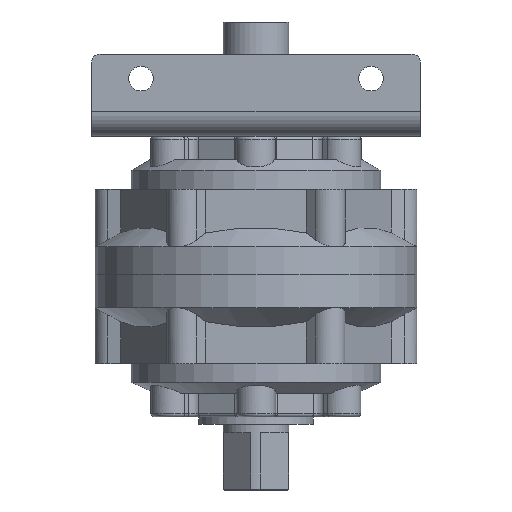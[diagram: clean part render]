
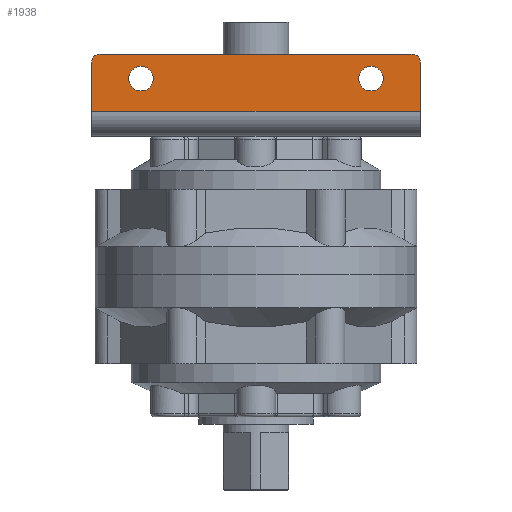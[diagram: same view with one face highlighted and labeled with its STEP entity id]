
A CAD part, front view. The second image highlights one B-rep face of the part: STEP entity #1938.
In plain terms, the highlighted planar face has unit normal (0, -1, 0).
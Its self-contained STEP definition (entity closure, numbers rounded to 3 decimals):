
#366 = EDGE_LOOP ( 'NONE', ( #7292, #17486 ) ) ;
#391 = VERTEX_POINT ( 'NONE', #3326 ) ;
#470 = DIRECTION ( 'NONE',  ( 0., 1., 0. ) ) ;
#867 = CARTESIAN_POINT ( 'NONE',  ( -100., -110., 30. ) ) ;
#1207 = VERTEX_POINT ( 'NONE', #8884 ) ;
#1219 = EDGE_CURVE ( 'NONE', #17101, #16779, #10678, .T. ) ;
#1266 = DIRECTION ( 'NONE',  ( 1., 0., 0. ) ) ;
#1867 = EDGE_CURVE ( 'NONE', #7527, #16779, #5267, .T. ) ;
#1938 = ADVANCED_FACE ( 'NONE', ( #9485, #8548, #1988 ), #11803, .T. ) ;
#1988 = FACE_BOUND ( 'NONE', #11320, .T. ) ;
#2032 = EDGE_CURVE ( 'NONE', #1207, #16079, #10176, .T. ) ;
#2201 = VERTEX_POINT ( 'NONE', #11086 ) ;
#2236 = EDGE_CURVE ( 'NONE', #2201, #7787, #7585, .T. ) ;
#2492 = ORIENTED_EDGE ( 'NONE', *, *, #6726, .T. ) ;
#2728 = DIRECTION ( 'NONE',  ( 0., 0., -1. ) ) ;
#3054 = CARTESIAN_POINT ( 'NONE',  ( 95., -110., 30. ) ) ;
#3326 = CARTESIAN_POINT ( 'NONE',  ( 100., -110., 0. ) ) ;
#3534 = EDGE_CURVE ( 'NONE', #7787, #2201, #10138, .T. ) ;
#3646 = VERTEX_POINT ( 'NONE', #15565 ) ;
#3648 = CARTESIAN_POINT ( 'NONE',  ( -100., -110., 0. ) ) ;
#3713 = EDGE_CURVE ( 'NONE', #10360, #3646, #11523, .T. ) ;
#3723 = AXIS2_PLACEMENT_3D ( 'NONE', #13331, #11874, #2728 ) ;
#3858 = AXIS2_PLACEMENT_3D ( 'NONE', #10850, #470, #9229 ) ;
#4544 = DIRECTION ( 'NONE',  ( 0., -1., 0. ) ) ;
#5107 = EDGE_LOOP ( 'NONE', ( #16360, #2492, #7720, #14678, #10292, #6778 ) ) ;
#5267 = LINE ( 'NONE', #13265, #17916 ) ;
#5488 = CIRCLE ( 'NONE', #11599, 7.5 ) ;
#5859 = CARTESIAN_POINT ( 'NONE',  ( -70., -110., 20. ) ) ;
#6327 = LINE ( 'NONE', #16575, #6568 ) ;
#6568 = VECTOR ( 'NONE', #10939, 1000. ) ;
#6699 = CARTESIAN_POINT ( 'NONE',  ( 70., -110., 20. ) ) ;
#6726 = EDGE_CURVE ( 'NONE', #7527, #391, #6327, .T. ) ;
#6763 = DIRECTION ( 'NONE',  ( 0., 1., 0. ) ) ;
#6778 = ORIENTED_EDGE ( 'NONE', *, *, #1219, .T. ) ;
#6876 = AXIS2_PLACEMENT_3D ( 'NONE', #6995, #12761, #8306 ) ;
#6995 = CARTESIAN_POINT ( 'NONE',  ( -70., -110., 20. ) ) ;
#7292 = ORIENTED_EDGE ( 'NONE', *, *, #3713, .F. ) ;
#7527 = VERTEX_POINT ( 'NONE', #3648 ) ;
#7585 = CIRCLE ( 'NONE', #18141, 7.5 ) ;
#7720 = ORIENTED_EDGE ( 'NONE', *, *, #12596, .T. ) ;
#7787 = VERTEX_POINT ( 'NONE', #18192 ) ;
#8274 = CARTESIAN_POINT ( 'NONE',  ( -95., -110., 35. ) ) ;
#8306 = DIRECTION ( 'NONE',  ( 0., 0., -1. ) ) ;
#8322 = DIRECTION ( 'NONE',  ( 0., 0., 1. ) ) ;
#8548 = FACE_BOUND ( 'NONE', #366, .T. ) ;
#8884 = CARTESIAN_POINT ( 'NONE',  ( 100., -110., 30. ) ) ;
#9139 = DIRECTION ( 'NONE',  ( 0., 0., -1. ) ) ;
#9229 = DIRECTION ( 'NONE',  ( 0., 0., -1. ) ) ;
#9485 = FACE_OUTER_BOUND ( 'NONE', #5107, .T. ) ;
#10138 = CIRCLE ( 'NONE', #3858, 7.5 ) ;
#10176 = CIRCLE ( 'NONE', #14511, 5. ) ;
#10277 = LINE ( 'NONE', #16299, #14969 ) ;
#10292 = ORIENTED_EDGE ( 'NONE', *, *, #17372, .F. ) ;
#10360 = VERTEX_POINT ( 'NONE', #11333 ) ;
#10678 = CIRCLE ( 'NONE', #15261, 5. ) ;
#10838 = VECTOR ( 'NONE', #8322, 1000. ) ;
#10850 = CARTESIAN_POINT ( 'NONE',  ( 70., -110., 20. ) ) ;
#10939 = DIRECTION ( 'NONE',  ( 1., 0., 0. ) ) ;
#11086 = CARTESIAN_POINT ( 'NONE',  ( 70., -110., 27.5 ) ) ;
#11320 = EDGE_LOOP ( 'NONE', ( #12412, #11467 ) ) ;
#11331 = DIRECTION ( 'NONE',  ( 0., 0., -1. ) ) ;
#11333 = CARTESIAN_POINT ( 'NONE',  ( -70., -110., 27.5 ) ) ;
#11467 = ORIENTED_EDGE ( 'NONE', *, *, #3534, .T. ) ;
#11523 = CIRCLE ( 'NONE', #6876, 7.5 ) ;
#11599 = AXIS2_PLACEMENT_3D ( 'NONE', #5859, #19311, #14941 ) ;
#11803 = PLANE ( 'NONE',  #3723 ) ;
#11874 = DIRECTION ( 'NONE',  ( 0., -1., 0. ) ) ;
#11944 = CARTESIAN_POINT ( 'NONE',  ( -95., -110., 30. ) ) ;
#12186 = EDGE_CURVE ( 'NONE', #3646, #10360, #5488, .T. ) ;
#12412 = ORIENTED_EDGE ( 'NONE', *, *, #2236, .T. ) ;
#12596 = EDGE_CURVE ( 'NONE', #391, #1207, #16227, .T. ) ;
#12761 = DIRECTION ( 'NONE',  ( 0., -1., 0. ) ) ;
#13265 = CARTESIAN_POINT ( 'NONE',  ( -100., -110., -15. ) ) ;
#13331 = CARTESIAN_POINT ( 'NONE',  ( -100., -110., -15. ) ) ;
#14511 = AXIS2_PLACEMENT_3D ( 'NONE', #3054, #16719, #9139 ) ;
#14678 = ORIENTED_EDGE ( 'NONE', *, *, #2032, .T. ) ;
#14941 = DIRECTION ( 'NONE',  ( 0., 0., -1. ) ) ;
#14969 = VECTOR ( 'NONE', #1266, 1000. ) ;
#15261 = AXIS2_PLACEMENT_3D ( 'NONE', #11944, #4544, #19202 ) ;
#15565 = CARTESIAN_POINT ( 'NONE',  ( -70., -110., 12.5 ) ) ;
#16079 = VERTEX_POINT ( 'NONE', #18531 ) ;
#16227 = LINE ( 'NONE', #17219, #10838 ) ;
#16299 = CARTESIAN_POINT ( 'NONE',  ( -100., -110., 35. ) ) ;
#16360 = ORIENTED_EDGE ( 'NONE', *, *, #1867, .F. ) ;
#16575 = CARTESIAN_POINT ( 'NONE',  ( 100., -110., 0. ) ) ;
#16719 = DIRECTION ( 'NONE',  ( 0., -1., 0. ) ) ;
#16779 = VERTEX_POINT ( 'NONE', #867 ) ;
#17101 = VERTEX_POINT ( 'NONE', #8274 ) ;
#17219 = CARTESIAN_POINT ( 'NONE',  ( 100., -110., -15. ) ) ;
#17372 = EDGE_CURVE ( 'NONE', #17101, #16079, #10277, .T. ) ;
#17486 = ORIENTED_EDGE ( 'NONE', *, *, #12186, .F. ) ;
#17646 = DIRECTION ( 'NONE',  ( 0., 0., 1. ) ) ;
#17916 = VECTOR ( 'NONE', #17646, 1000. ) ;
#18141 = AXIS2_PLACEMENT_3D ( 'NONE', #6699, #6763, #11331 ) ;
#18192 = CARTESIAN_POINT ( 'NONE',  ( 70., -110., 12.5 ) ) ;
#18531 = CARTESIAN_POINT ( 'NONE',  ( 95., -110., 35. ) ) ;
#19202 = DIRECTION ( 'NONE',  ( 0., 0., -1. ) ) ;
#19311 = DIRECTION ( 'NONE',  ( 0., -1., 0. ) ) ;
